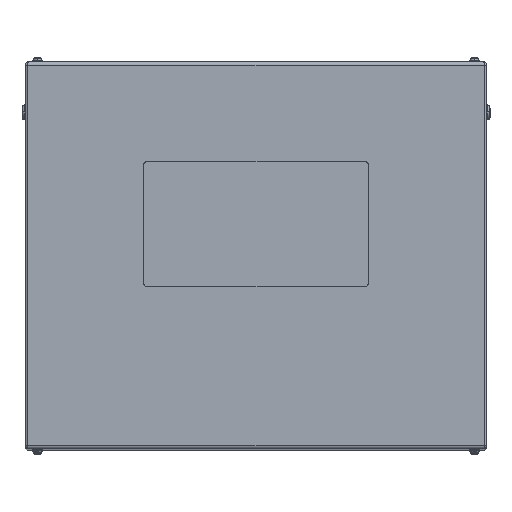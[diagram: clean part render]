
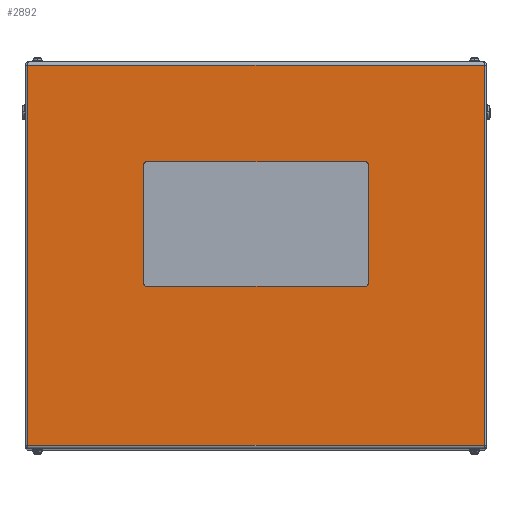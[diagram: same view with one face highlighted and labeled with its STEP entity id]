
A CAD part, top view. The second image highlights one B-rep face of the part: STEP entity #2892.
In plain terms, the highlighted planar face has unit normal (0, 0, 1).
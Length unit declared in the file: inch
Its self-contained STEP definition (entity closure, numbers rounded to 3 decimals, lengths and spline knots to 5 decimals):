
#512 = VERTEX_POINT ( 'NONE', #596 ) ;
#553 = CARTESIAN_POINT ( 'NONE',  ( 18.3, 15.5, 33.5 ) ) ;
#596 = CARTESIAN_POINT ( 'NONE',  ( 9., -2.25, 33.5 ) ) ;
#653 = EDGE_CURVE ( 'NONE', #6803, #512, #16954, .T. ) ;
#991 = ORIENTED_EDGE ( 'NONE', *, *, #14413, .T. ) ;
#1748 = VECTOR ( 'NONE', #9399, 39.37008 ) ;
#1880 = VERTEX_POINT ( 'NONE', #17770 ) ;
#1917 = DIRECTION ( 'NONE',  ( -1., 0., 0. ) ) ;
#2892 = ADVANCED_FACE ( 'NONE', ( #3620, #8660 ), #8561, .F. ) ;
#2925 = VECTOR ( 'NONE', #7791, 39.37008 ) ;
#3021 = LINE ( 'NONE', #9440, #8312 ) ;
#3034 = CARTESIAN_POINT ( 'NONE',  ( 8.75, 7.25, 33.5 ) ) ;
#3384 = EDGE_CURVE ( 'NONE', #7298, #20099, #8347, .T. ) ;
#3541 = ORIENTED_EDGE ( 'NONE', *, *, #11322, .F. ) ;
#3620 = FACE_BOUND ( 'NONE', #3998, .T. ) ;
#3693 = EDGE_CURVE ( 'NONE', #7597, #11473, #19285, .T. ) ;
#3765 = DIRECTION ( 'NONE',  ( 0., -1., 0. ) ) ;
#3998 = EDGE_LOOP ( 'NONE', ( #13971, #4607, #9065, #19310, #3541, #8682, #6471, #13883 ) ) ;
#4128 = ORIENTED_EDGE ( 'NONE', *, *, #20355, .T. ) ;
#4607 = ORIENTED_EDGE ( 'NONE', *, *, #3384, .F. ) ;
#4830 = DIRECTION ( 'NONE',  ( 0., 0., 1. ) ) ;
#4895 = VECTOR ( 'NONE', #9636, 39.37008 ) ;
#4992 = CARTESIAN_POINT ( 'NONE',  ( -9., -2.25, 33.5 ) ) ;
#5357 = CARTESIAN_POINT ( 'NONE',  ( -8.75, 7.5, 33.5 ) ) ;
#5874 = DIRECTION ( 'NONE',  ( 1., 0., 0. ) ) ;
#5882 = EDGE_CURVE ( 'NONE', #1880, #17589, #19472, .T. ) ;
#6196 = CARTESIAN_POINT ( 'NONE',  ( -8.75, 7.25, 33.5 ) ) ;
#6471 = ORIENTED_EDGE ( 'NONE', *, *, #16056, .F. ) ;
#6803 = VERTEX_POINT ( 'NONE', #11562 ) ;
#6919 = CARTESIAN_POINT ( 'NONE',  ( -9., 7.25, 33.5 ) ) ;
#6934 = CARTESIAN_POINT ( 'NONE',  ( -8.75, 7.5, 33.5 ) ) ;
#7298 = VERTEX_POINT ( 'NONE', #4992 ) ;
#7424 = CIRCLE ( 'NONE', #8092, 0.25 ) ;
#7597 = VERTEX_POINT ( 'NONE', #13548 ) ;
#7671 = DIRECTION ( 'NONE',  ( 0., 0., 1. ) ) ;
#7791 = DIRECTION ( 'NONE',  ( 0., 1., 0. ) ) ;
#7880 = CARTESIAN_POINT ( 'NONE',  ( -8.75, -2.25, 33.5 ) ) ;
#7892 = LINE ( 'NONE', #11136, #2925 ) ;
#8092 = AXIS2_PLACEMENT_3D ( 'NONE', #6196, #7671, #17405 ) ;
#8268 = CARTESIAN_POINT ( 'NONE',  ( 18.3, -15.234, 33.5 ) ) ;
#8312 = VECTOR ( 'NONE', #5874, 39.37008 ) ;
#8347 = CIRCLE ( 'NONE', #17715, 0.25 ) ;
#8396 = DIRECTION ( 'NONE',  ( -1., 0., 0. ) ) ;
#8561 = PLANE ( 'NONE',  #19433 ) ;
#8596 = CARTESIAN_POINT ( 'NONE',  ( 18.3, 15.234, 33.5 ) ) ;
#8660 = FACE_OUTER_BOUND ( 'NONE', #9046, .T. ) ;
#8682 = ORIENTED_EDGE ( 'NONE', *, *, #5882, .F. ) ;
#8830 = CARTESIAN_POINT ( 'NONE',  ( 18.5, 15.234, 33.5 ) ) ;
#9046 = EDGE_LOOP ( 'NONE', ( #991, #13965, #4128, #12316 ) ) ;
#9065 = ORIENTED_EDGE ( 'NONE', *, *, #10017, .F. ) ;
#9194 = CARTESIAN_POINT ( 'NONE',  ( 8.75, -2.25, 33.5 ) ) ;
#9399 = DIRECTION ( 'NONE',  ( 0., 1., 0. ) ) ;
#9440 = CARTESIAN_POINT ( 'NONE',  ( -8.75, -2.5, 33.5 ) ) ;
#9636 = DIRECTION ( 'NONE',  ( 1., 0., 0. ) ) ;
#9698 = CARTESIAN_POINT ( 'NONE',  ( -9., 7.25, 33.5 ) ) ;
#9812 = VECTOR ( 'NONE', #3765, 39.37008 ) ;
#9919 = DIRECTION ( 'NONE',  ( 0., 0., -1. ) ) ;
#10017 = EDGE_CURVE ( 'NONE', #15960, #7298, #16235, .T. ) ;
#10189 = LINE ( 'NONE', #8830, #17976 ) ;
#10608 = CARTESIAN_POINT ( 'NONE',  ( -18.3, 15.5, 33.5 ) ) ;
#11111 = VECTOR ( 'NONE', #8396, 39.37008 ) ;
#11136 = CARTESIAN_POINT ( 'NONE',  ( 9., 7.25, 33.5 ) ) ;
#11322 = EDGE_CURVE ( 'NONE', #17589, #11709, #14855, .T. ) ;
#11473 = VERTEX_POINT ( 'NONE', #18025 ) ;
#11562 = CARTESIAN_POINT ( 'NONE',  ( 8.75, -2.5, 33.5 ) ) ;
#11709 = VERTEX_POINT ( 'NONE', #5357 ) ;
#11748 = EDGE_CURVE ( 'NONE', #11709, #15960, #7424, .T. ) ;
#12054 = VERTEX_POINT ( 'NONE', #8596 ) ;
#12316 = ORIENTED_EDGE ( 'NONE', *, *, #13392, .T. ) ;
#12874 = LINE ( 'NONE', #553, #1748 ) ;
#13392 = EDGE_CURVE ( 'NONE', #12054, #20089, #10189, .T. ) ;
#13548 = CARTESIAN_POINT ( 'NONE',  ( -18.3, -15.234, 33.5 ) ) ;
#13883 = ORIENTED_EDGE ( 'NONE', *, *, #653, .F. ) ;
#13944 = AXIS2_PLACEMENT_3D ( 'NONE', #9194, #14201, #15876 ) ;
#13965 = ORIENTED_EDGE ( 'NONE', *, *, #3693, .T. ) ;
#13971 = ORIENTED_EDGE ( 'NONE', *, *, #16340, .F. ) ;
#14201 = DIRECTION ( 'NONE',  ( 0., 0., 1. ) ) ;
#14413 = EDGE_CURVE ( 'NONE', #20089, #7597, #18788, .T. ) ;
#14855 = LINE ( 'NONE', #6934, #11111 ) ;
#14905 = VECTOR ( 'NONE', #16898, 39.37008 ) ;
#15876 = DIRECTION ( 'NONE',  ( 1., 0., 0. ) ) ;
#15960 = VERTEX_POINT ( 'NONE', #9698 ) ;
#16056 = EDGE_CURVE ( 'NONE', #512, #1880, #7892, .T. ) ;
#16235 = LINE ( 'NONE', #6919, #9812 ) ;
#16333 = CARTESIAN_POINT ( 'NONE',  ( -18.3, 15.234, 33.5 ) ) ;
#16340 = EDGE_CURVE ( 'NONE', #20099, #6803, #3021, .T. ) ;
#16574 = DIRECTION ( 'NONE',  ( -1., 0., 0. ) ) ;
#16898 = DIRECTION ( 'NONE',  ( 0., -1., 0. ) ) ;
#16954 = CIRCLE ( 'NONE', #13944, 0.25 ) ;
#17405 = DIRECTION ( 'NONE',  ( 1., 0., 0. ) ) ;
#17507 = DIRECTION ( 'NONE',  ( 1., 0., 0. ) ) ;
#17589 = VERTEX_POINT ( 'NONE', #18113 ) ;
#17715 = AXIS2_PLACEMENT_3D ( 'NONE', #7880, #4830, #17507 ) ;
#17770 = CARTESIAN_POINT ( 'NONE',  ( 9., 7.25, 33.5 ) ) ;
#17976 = VECTOR ( 'NONE', #16574, 39.37008 ) ;
#18025 = CARTESIAN_POINT ( 'NONE',  ( 18.3, -15.234, 33.5 ) ) ;
#18087 = CARTESIAN_POINT ( 'NONE',  ( 18.5, 15.5, 33.5 ) ) ;
#18113 = CARTESIAN_POINT ( 'NONE',  ( 8.75, 7.5, 33.5 ) ) ;
#18788 = LINE ( 'NONE', #10608, #14905 ) ;
#19211 = DIRECTION ( 'NONE',  ( -1., 0., 0. ) ) ;
#19285 = LINE ( 'NONE', #8268, #4895 ) ;
#19310 = ORIENTED_EDGE ( 'NONE', *, *, #11748, .F. ) ;
#19433 = AXIS2_PLACEMENT_3D ( 'NONE', #18087, #9919, #1917 ) ;
#19472 = CIRCLE ( 'NONE', #20495, 0.25 ) ;
#19924 = CARTESIAN_POINT ( 'NONE',  ( -8.75, -2.5, 33.5 ) ) ;
#20089 = VERTEX_POINT ( 'NONE', #16333 ) ;
#20099 = VERTEX_POINT ( 'NONE', #19924 ) ;
#20355 = EDGE_CURVE ( 'NONE', #11473, #12054, #12874, .T. ) ;
#20495 = AXIS2_PLACEMENT_3D ( 'NONE', #3034, #20686, #19211 ) ;
#20686 = DIRECTION ( 'NONE',  ( 0., 0., 1. ) ) ;
